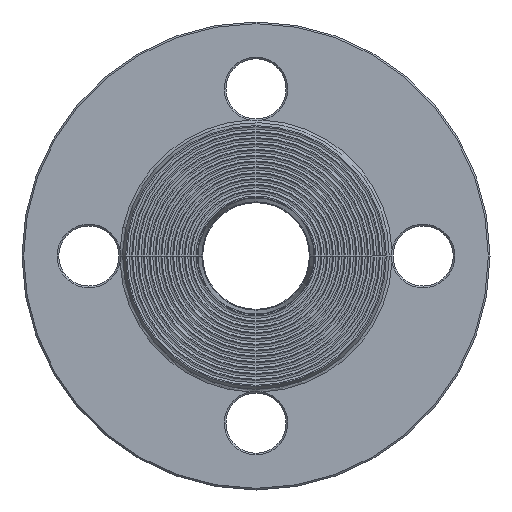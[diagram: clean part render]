
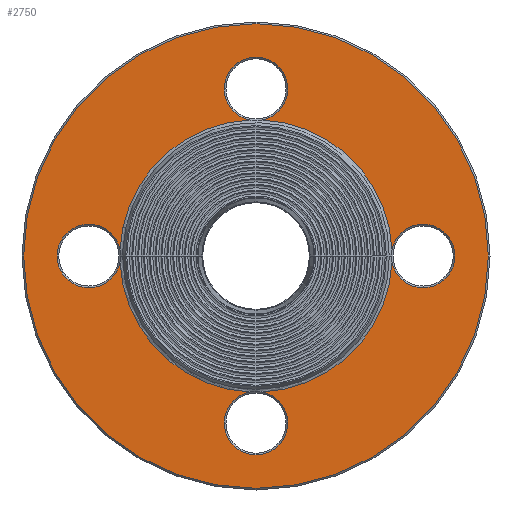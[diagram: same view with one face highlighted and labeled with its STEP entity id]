
A CAD part, front view. The second image highlights one B-rep face of the part: STEP entity #2750.
In plain terms, the highlighted planar face has unit normal (0, -1, 0).
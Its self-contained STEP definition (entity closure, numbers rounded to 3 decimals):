
#1570=CARTESIAN_POINT('',(54.077,71.,0.));
#1580=DIRECTION('',(-0.,1.,0.));
#1590=DIRECTION('',(1.,0.,0.));
#1600=AXIS2_PLACEMENT_3D('',#1570,#1580,#1590);
#1610=PLANE('',#1600);
#1620=CARTESIAN_POINT('',(-51.,71.,0.));
#1630=DIRECTION('',(0.,1.,0.));
#1640=DIRECTION('',(1.,0.,0.));
#1650=AXIS2_PLACEMENT_3D('',#1620,#1630,#1640);
#1660=CIRCLE('',#1650,9.5);
#1670=CARTESIAN_POINT('',(-41.688,71.,-1.883));
#1680=VERTEX_POINT('',#1670);
#1690=CARTESIAN_POINT('',(-60.5,71.,0.));
#1700=VERTEX_POINT('',#1690);
#1710=EDGE_CURVE('',#1680,#1700,#1660,.T.);
#1720=ORIENTED_EDGE('',*,*,#1710,.T.);
#1730=CARTESIAN_POINT('',(-1.,71.,0.));
#1740=DIRECTION('',(0.,1.,0.));
#1750=DIRECTION('',(1.,0.,0.));
#1760=AXIS2_PLACEMENT_3D('',#1730,#1740,#1750);
#1770=CIRCLE('',#1760,40.732);
#1780=CARTESIAN_POINT('',(-2.883,71.,-40.688));
#1790=VERTEX_POINT('',#1780);
#1800=EDGE_CURVE('',#1790,#1680,#1770,.T.);
#1810=ORIENTED_EDGE('',*,*,#1800,.T.);
#1820=CARTESIAN_POINT('',(-1.,71.,-50.));
#1830=DIRECTION('',(0.,1.,0.));
#1840=DIRECTION('',(1.,0.,0.));
#1850=AXIS2_PLACEMENT_3D('',#1820,#1830,#1840);
#1860=CIRCLE('',#1850,9.5);
#1870=CARTESIAN_POINT('',(-10.5,71.,-50.));
#1880=VERTEX_POINT('',#1870);
#1890=EDGE_CURVE('',#1880,#1790,#1860,.T.);
#1900=ORIENTED_EDGE('',*,*,#1890,.T.);
#1910=CARTESIAN_POINT('',(8.5,71.,-50.));
#1920=VERTEX_POINT('',#1910);
#1930=EDGE_CURVE('',#1920,#1880,#1860,.T.);
#1940=ORIENTED_EDGE('',*,*,#1930,.T.);
#1950=CARTESIAN_POINT('',(0.883,71.,-40.688));
#1960=VERTEX_POINT('',#1950);
#1970=EDGE_CURVE('',#1960,#1920,#1860,.T.);
#1980=ORIENTED_EDGE('',*,*,#1970,.T.);
#1990=CARTESIAN_POINT('',(-1.,71.,0.));
#2000=DIRECTION('',(0.,1.,0.));
#2010=DIRECTION('',(1.,0.,0.));
#2020=AXIS2_PLACEMENT_3D('',#1990,#2000,#2010);
#2030=CIRCLE('',#2020,40.732);
#2040=CARTESIAN_POINT('',(39.688,71.,-1.883));
#2050=VERTEX_POINT('',#2040);
#2060=EDGE_CURVE('',#2050,#1960,#2030,.T.);
#2070=ORIENTED_EDGE('',*,*,#2060,.T.);
#2080=CARTESIAN_POINT('',(49.,71.,0.));
#2090=DIRECTION('',(0.,1.,0.));
#2100=DIRECTION('',(1.,0.,0.));
#2110=AXIS2_PLACEMENT_3D('',#2080,#2090,#2100);
#2120=CIRCLE('',#2110,9.5);
#2130=CARTESIAN_POINT('',(58.5,71.,0.));
#2140=VERTEX_POINT('',#2130);
#2150=EDGE_CURVE('',#2140,#2050,#2120,.T.);
#2160=ORIENTED_EDGE('',*,*,#2150,.T.);
#2170=CARTESIAN_POINT('',(39.688,71.,1.883));
#2180=VERTEX_POINT('',#2170);
#2190=EDGE_CURVE('',#2180,#2140,#2120,.T.);
#2200=ORIENTED_EDGE('',*,*,#2190,.T.);
#2210=CARTESIAN_POINT('',(-1.,71.,0.));
#2220=DIRECTION('',(0.,1.,0.));
#2230=DIRECTION('',(1.,0.,0.));
#2240=AXIS2_PLACEMENT_3D('',#2210,#2220,#2230);
#2250=CIRCLE('',#2240,40.732);
#2260=CARTESIAN_POINT('',(0.883,71.,40.688));
#2270=VERTEX_POINT('',#2260);
#2280=EDGE_CURVE('',#2270,#2180,#2250,.T.);
#2290=ORIENTED_EDGE('',*,*,#2280,.T.);
#2300=CARTESIAN_POINT('',(-1.,71.,50.));
#2310=DIRECTION('',(0.,1.,0.));
#2320=DIRECTION('',(1.,0.,0.));
#2330=AXIS2_PLACEMENT_3D('',#2300,#2310,#2320);
#2340=CIRCLE('',#2330,9.5);
#2350=CARTESIAN_POINT('',(8.5,71.,50.));
#2360=VERTEX_POINT('',#2350);
#2370=EDGE_CURVE('',#2360,#2270,#2340,.T.);
#2380=ORIENTED_EDGE('',*,*,#2370,.T.);
#2390=CARTESIAN_POINT('',(-10.5,71.,50.));
#2400=VERTEX_POINT('',#2390);
#2410=EDGE_CURVE('',#2400,#2360,#2340,.T.);
#2420=ORIENTED_EDGE('',*,*,#2410,.T.);
#2430=CARTESIAN_POINT('',(-2.883,71.,40.688));
#2440=VERTEX_POINT('',#2430);
#2450=EDGE_CURVE('',#2440,#2400,#2340,.T.);
#2460=ORIENTED_EDGE('',*,*,#2450,.T.);
#2470=CARTESIAN_POINT('',(-1.,71.,0.));
#2480=DIRECTION('',(0.,1.,0.));
#2490=DIRECTION('',(1.,0.,0.));
#2500=AXIS2_PLACEMENT_3D('',#2470,#2480,#2490);
#2510=CIRCLE('',#2500,40.732);
#2520=CARTESIAN_POINT('',(-41.688,71.,1.883));
#2530=VERTEX_POINT('',#2520);
#2540=EDGE_CURVE('',#2530,#2440,#2510,.T.);
#2550=ORIENTED_EDGE('',*,*,#2540,.T.);
#2560=EDGE_CURVE('',#1700,#2530,#1660,.T.);
#2570=ORIENTED_EDGE('',*,*,#2560,.T.);
#2580=EDGE_LOOP('',(#2570,#2550,#2460,#2420,#2380,#2290,#2200,#2160,
#2070,#1980,#1940,#1900,#1810,#1720));
#2590=FACE_BOUND('',#2580,.T.);
#2600=CARTESIAN_POINT('',(-1.,71.,0.));
#2610=DIRECTION('',(0.,1.,0.));
#2620=DIRECTION('',(1.,0.,0.));
#2630=AXIS2_PLACEMENT_3D('',#2600,#2610,#2620);
#2640=CIRCLE('',#2630,69.5);
#2650=CARTESIAN_POINT('',(68.5,71.,0.));
#2660=VERTEX_POINT('',#2650);
#2670=CARTESIAN_POINT('',(-70.5,71.,0.));
#2680=VERTEX_POINT('',#2670);
#2690=EDGE_CURVE('',#2660,#2680,#2640,.T.);
#2700=ORIENTED_EDGE('',*,*,#2690,.F.);
#2710=EDGE_CURVE('',#2680,#2660,#2640,.T.);
#2720=ORIENTED_EDGE('',*,*,#2710,.F.);
#2730=EDGE_LOOP('',(#2720,#2700));
#2740=FACE_OUTER_BOUND('',#2730,.T.);
#2750=ADVANCED_FACE('',(#2590,#2740),#1610,.F.);
